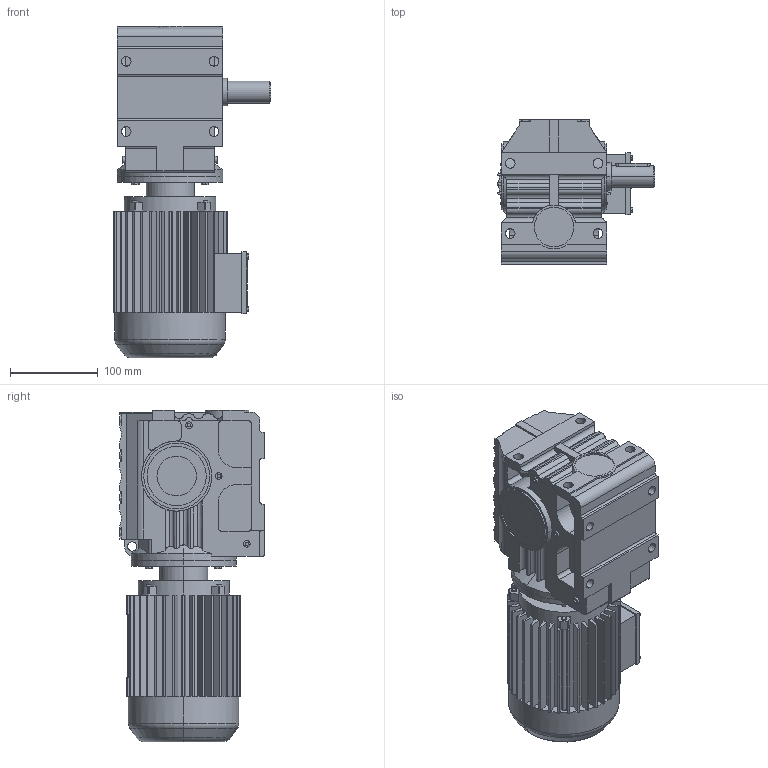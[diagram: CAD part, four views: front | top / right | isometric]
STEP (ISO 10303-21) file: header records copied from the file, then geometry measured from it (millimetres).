
FILE_DESCRIPTION(('Open CASCADE Model'),'2;1');
FILE_NAME('Open CASCADE Shape Model','2021-07-20T10:54:22',('Author'),( 'Open CASCADE'),'Open CASCADE STEP processor 6.3','Open CASCADE 6.3' ,'Unknown');
FILE_SCHEMA(('AUTOMOTIVE_DESIGN_CC2 { 1 2 10303 214 -1 1 5 4 }'));
Length unit declared in the file: millimetre
Products named in the file (4): 1_S47-Y63S-A; S47‵97_47.step; 萇儂_120_Y63S.step; す瑩妗陑粣S_47_S.step
Assembly tree (3 placements, depth 2):
  1_S47-Y63S-A
    S47‵97_47.step
    萇儂_120_Y63S.step
    す瑩妗陑粣S_47_S.step
Bounding box: 180 x 165 x 378 mm (x, y, z)
Volume: 4777950.4 mm3; surface area: 420314.2 mm2
Topology: 3 solids, 3 shells, 857 faces, 2304 edges, 1491 vertices
Faces by surface type: plane 555, cylinder 285, cone 13, torus 4
Entity records: 64266 total; most frequent: CARTESIAN_POINT 21091, DIRECTION 7308, ORIENTED_EDGE 4604, PCURVE 4604, DEFINITIONAL_REPRESENTATION 4604, LINE 3861, VECTOR 3861, EDGE_CURVE 2302
